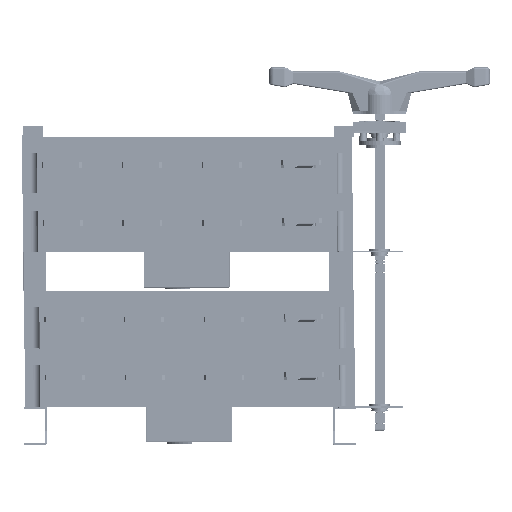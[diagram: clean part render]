
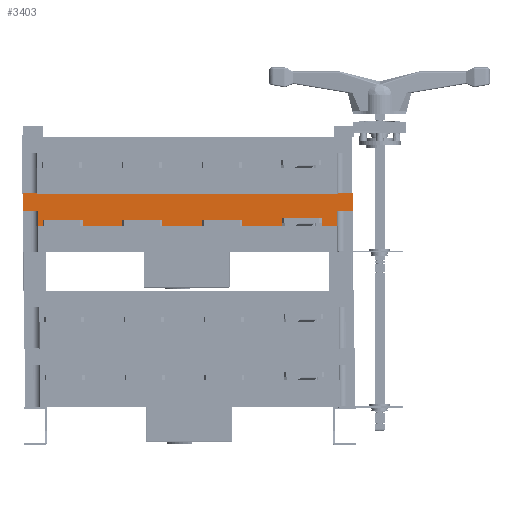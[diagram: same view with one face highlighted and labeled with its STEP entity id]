
A CAD part, front view. The second image highlights one B-rep face of the part: STEP entity #3403.
In plain terms, the highlighted planar face has unit normal (0, -1, 0).
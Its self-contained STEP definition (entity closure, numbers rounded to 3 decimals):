
#3403=ADVANCED_FACE('',(#5502),#4623,.T.);
#4623=PLANE('',#24958);
#5502=FACE_OUTER_BOUND('',#6639,.T.);
#6639=EDGE_LOOP('',(#9621,#9622,#9623,#9624,#9625,#9626,#9627,#9628,#9629,
#9630,#9631,#9632,#9633,#9634,#9635,#9636,#9637,#9638,#9639,#9640,#9641,
#9642,#9643,#9644,#9645,#9646,#9647,#9648));
#9621=ORIENTED_EDGE('',*,*,#17516,.F.);
#9622=ORIENTED_EDGE('',*,*,#17517,.T.);
#9623=ORIENTED_EDGE('',*,*,#17518,.T.);
#9624=ORIENTED_EDGE('',*,*,#17519,.F.);
#9625=ORIENTED_EDGE('',*,*,#17520,.F.);
#9626=ORIENTED_EDGE('',*,*,#17521,.T.);
#9627=ORIENTED_EDGE('',*,*,#17522,.T.);
#9628=ORIENTED_EDGE('',*,*,#17523,.F.);
#9629=ORIENTED_EDGE('',*,*,#17524,.F.);
#9630=ORIENTED_EDGE('',*,*,#17525,.T.);
#9631=ORIENTED_EDGE('',*,*,#17526,.T.);
#9632=ORIENTED_EDGE('',*,*,#17527,.F.);
#9633=ORIENTED_EDGE('',*,*,#17528,.F.);
#9634=ORIENTED_EDGE('',*,*,#17529,.T.);
#9635=ORIENTED_EDGE('',*,*,#17530,.T.);
#9636=ORIENTED_EDGE('',*,*,#17531,.F.);
#9637=ORIENTED_EDGE('',*,*,#17532,.F.);
#9638=ORIENTED_EDGE('',*,*,#17533,.T.);
#9639=ORIENTED_EDGE('',*,*,#17534,.T.);
#9640=ORIENTED_EDGE('',*,*,#17535,.F.);
#9641=ORIENTED_EDGE('',*,*,#17536,.F.);
#9642=ORIENTED_EDGE('',*,*,#17537,.T.);
#9643=ORIENTED_EDGE('',*,*,#17538,.T.);
#9644=ORIENTED_EDGE('',*,*,#17539,.T.);
#9645=ORIENTED_EDGE('',*,*,#17540,.F.);
#9646=ORIENTED_EDGE('',*,*,#17541,.F.);
#9647=ORIENTED_EDGE('',*,*,#17542,.F.);
#9648=ORIENTED_EDGE('',*,*,#17543,.F.);
#15045=VERTEX_POINT('',#39412);
#15046=VERTEX_POINT('',#39413);
#15047=VERTEX_POINT('',#39415);
#15048=VERTEX_POINT('',#39417);
#15049=VERTEX_POINT('',#39419);
#15050=VERTEX_POINT('',#39421);
#15051=VERTEX_POINT('',#39423);
#15052=VERTEX_POINT('',#39425);
#15053=VERTEX_POINT('',#39427);
#15054=VERTEX_POINT('',#39429);
#15055=VERTEX_POINT('',#39431);
#15056=VERTEX_POINT('',#39433);
#15057=VERTEX_POINT('',#39435);
#15058=VERTEX_POINT('',#39437);
#15059=VERTEX_POINT('',#39439);
#15060=VERTEX_POINT('',#39441);
#15061=VERTEX_POINT('',#39443);
#15062=VERTEX_POINT('',#39445);
#15063=VERTEX_POINT('',#39447);
#15064=VERTEX_POINT('',#39449);
#15065=VERTEX_POINT('',#39451);
#15066=VERTEX_POINT('',#39453);
#15067=VERTEX_POINT('',#39455);
#15068=VERTEX_POINT('',#39457);
#15069=VERTEX_POINT('',#39459);
#15070=VERTEX_POINT('',#39461);
#15071=VERTEX_POINT('',#39463);
#15072=VERTEX_POINT('',#39465);
#17516=EDGE_CURVE('',#15045,#15046,#20543,.T.);
#17517=EDGE_CURVE('',#15045,#15047,#20544,.T.);
#17518=EDGE_CURVE('',#15047,#15048,#20545,.T.);
#17519=EDGE_CURVE('',#15049,#15048,#20546,.T.);
#17520=EDGE_CURVE('',#15050,#15049,#20547,.T.);
#17521=EDGE_CURVE('',#15050,#15051,#20548,.T.);
#17522=EDGE_CURVE('',#15051,#15052,#20549,.T.);
#17523=EDGE_CURVE('',#15053,#15052,#20550,.T.);
#17524=EDGE_CURVE('',#15054,#15053,#20551,.T.);
#17525=EDGE_CURVE('',#15054,#15055,#20552,.T.);
#17526=EDGE_CURVE('',#15055,#15056,#20553,.T.);
#17527=EDGE_CURVE('',#15057,#15056,#20554,.T.);
#17528=EDGE_CURVE('',#15058,#15057,#20555,.T.);
#17529=EDGE_CURVE('',#15058,#15059,#20556,.T.);
#17530=EDGE_CURVE('',#15059,#15060,#20557,.T.);
#17531=EDGE_CURVE('',#15061,#15060,#20558,.T.);
#17532=EDGE_CURVE('',#15062,#15061,#20559,.T.);
#17533=EDGE_CURVE('',#15062,#15063,#20560,.T.);
#17534=EDGE_CURVE('',#15063,#15064,#20561,.T.);
#17535=EDGE_CURVE('',#15065,#15064,#20562,.T.);
#17536=EDGE_CURVE('',#15066,#15065,#20563,.T.);
#17537=EDGE_CURVE('',#15066,#15067,#20564,.T.);
#17538=EDGE_CURVE('',#15067,#15068,#20565,.T.);
#17539=EDGE_CURVE('',#15068,#15069,#20566,.T.);
#17540=EDGE_CURVE('',#15070,#15069,#20567,.T.);
#17541=EDGE_CURVE('',#15071,#15070,#20568,.T.);
#17542=EDGE_CURVE('',#15072,#15071,#20569,.T.);
#17543=EDGE_CURVE('',#15046,#15072,#20570,.T.);
#20543=LINE('',#39411,#22796);
#20544=LINE('',#39414,#22797);
#20545=LINE('',#39416,#22798);
#20546=LINE('',#39418,#22799);
#20547=LINE('',#39420,#22800);
#20548=LINE('',#39422,#22801);
#20549=LINE('',#39424,#22802);
#20550=LINE('',#39426,#22803);
#20551=LINE('',#39428,#22804);
#20552=LINE('',#39430,#22805);
#20553=LINE('',#39432,#22806);
#20554=LINE('',#39434,#22807);
#20555=LINE('',#39436,#22808);
#20556=LINE('',#39438,#22809);
#20557=LINE('',#39440,#22810);
#20558=LINE('',#39442,#22811);
#20559=LINE('',#39444,#22812);
#20560=LINE('',#39446,#22813);
#20561=LINE('',#39448,#22814);
#20562=LINE('',#39450,#22815);
#20563=LINE('',#39452,#22816);
#20564=LINE('',#39454,#22817);
#20565=LINE('',#39456,#22818);
#20566=LINE('',#39458,#22819);
#20567=LINE('',#39460,#22820);
#20568=LINE('',#39462,#22821);
#20569=LINE('',#39464,#22822);
#20570=LINE('',#39466,#22823);
#22796=VECTOR('',#28161,1.);
#22797=VECTOR('',#28162,1.);
#22798=VECTOR('',#28163,1.);
#22799=VECTOR('',#28164,1.);
#22800=VECTOR('',#28165,1.);
#22801=VECTOR('',#28166,1.);
#22802=VECTOR('',#28167,1.);
#22803=VECTOR('',#28168,1.);
#22804=VECTOR('',#28169,1.);
#22805=VECTOR('',#28170,1.);
#22806=VECTOR('',#28171,1.);
#22807=VECTOR('',#28172,1.);
#22808=VECTOR('',#28173,1.);
#22809=VECTOR('',#28174,1.);
#22810=VECTOR('',#28175,1.);
#22811=VECTOR('',#28176,1.);
#22812=VECTOR('',#28177,1.);
#22813=VECTOR('',#28178,1.);
#22814=VECTOR('',#28179,1.);
#22815=VECTOR('',#28180,1.);
#22816=VECTOR('',#28181,1.);
#22817=VECTOR('',#28182,1.);
#22818=VECTOR('',#28183,1.);
#22819=VECTOR('',#28184,1.);
#22820=VECTOR('',#28185,1.);
#22821=VECTOR('',#28186,1.);
#22822=VECTOR('',#28187,1.);
#22823=VECTOR('',#28188,1.);
#24958=AXIS2_PLACEMENT_3D('',#39467,#28189,#28190);
#28161=DIRECTION('',(-1.,0.,0.));
#28162=DIRECTION('',(0.,0.,-1.));
#28163=DIRECTION('',(1.,0.,0.));
#28164=DIRECTION('',(0.,0.,-1.));
#28165=DIRECTION('',(-1.,0.,0.));
#28166=DIRECTION('',(0.,0.,-1.));
#28167=DIRECTION('',(1.,0.,0.));
#28168=DIRECTION('',(0.,0.,-1.));
#28169=DIRECTION('',(-1.,0.,0.));
#28170=DIRECTION('',(0.,0.,-1.));
#28171=DIRECTION('',(1.,0.,0.));
#28172=DIRECTION('',(0.,0.,-1.));
#28173=DIRECTION('',(-1.,0.,0.));
#28174=DIRECTION('',(0.,0.,-1.));
#28175=DIRECTION('',(1.,0.,0.));
#28176=DIRECTION('',(0.,0.,-1.));
#28177=DIRECTION('',(-1.,0.,0.));
#28178=DIRECTION('',(0.,0.,-1.));
#28179=DIRECTION('',(1.,0.,0.));
#28180=DIRECTION('',(0.,0.,-1.));
#28181=DIRECTION('',(-1.,0.,0.));
#28182=DIRECTION('',(0.,0.,1.));
#28183=DIRECTION('',(-1.,0.,0.));
#28184=DIRECTION('',(0.,0.,-1.));
#28185=DIRECTION('',(1.,0.,0.));
#28186=DIRECTION('',(0.,0.,-1.));
#28187=DIRECTION('',(1.,0.,0.));
#28188=DIRECTION('',(0.,0.,1.));
#28189=DIRECTION('',(0.,-1.,0.));
#28190=DIRECTION('',(1.,0.,0.));
#39411=CARTESIAN_POINT('',(23.,-200.,-24.8));
#39412=CARTESIAN_POINT('',(23.,-200.,-24.8));
#39413=CARTESIAN_POINT('',(0.,-200.,-24.8));
#39414=CARTESIAN_POINT('',(23.,-200.,-24.8));
#39415=CARTESIAN_POINT('',(23.,-200.,-46.8));
#39416=CARTESIAN_POINT('',(0.,-200.,-46.8));
#39417=CARTESIAN_POINT('',(30.,-200.,-46.8));
#39418=CARTESIAN_POINT('',(30.,-200.,-38.8));
#39419=CARTESIAN_POINT('',(30.,-200.,-38.8));
#39420=CARTESIAN_POINT('',(90.,-200.,-38.8));
#39421=CARTESIAN_POINT('',(90.,-200.,-38.8));
#39422=CARTESIAN_POINT('',(90.,-200.,-38.8));
#39423=CARTESIAN_POINT('',(90.,-200.,-46.8));
#39424=CARTESIAN_POINT('',(0.,-200.,-46.8));
#39425=CARTESIAN_POINT('',(150.,-200.,-46.8));
#39426=CARTESIAN_POINT('',(150.,-200.,-38.8));
#39427=CARTESIAN_POINT('',(150.,-200.,-38.8));
#39428=CARTESIAN_POINT('',(210.,-200.,-38.8));
#39429=CARTESIAN_POINT('',(210.,-200.,-38.8));
#39430=CARTESIAN_POINT('',(210.,-200.,-38.8));
#39431=CARTESIAN_POINT('',(210.,-200.,-46.8));
#39432=CARTESIAN_POINT('',(0.,-200.,-46.8));
#39433=CARTESIAN_POINT('',(270.,-200.,-46.8));
#39434=CARTESIAN_POINT('',(270.,-200.,-38.8));
#39435=CARTESIAN_POINT('',(270.,-200.,-38.8));
#39436=CARTESIAN_POINT('',(330.,-200.,-38.8));
#39437=CARTESIAN_POINT('',(330.,-200.,-38.8));
#39438=CARTESIAN_POINT('',(330.,-200.,-38.8));
#39439=CARTESIAN_POINT('',(330.,-200.,-46.8));
#39440=CARTESIAN_POINT('',(0.,-200.,-46.8));
#39441=CARTESIAN_POINT('',(390.,-200.,-46.8));
#39442=CARTESIAN_POINT('',(390.,-200.,-34.8));
#39443=CARTESIAN_POINT('',(390.,-200.,-34.8));
#39444=CARTESIAN_POINT('',(450.,-200.,-34.8));
#39445=CARTESIAN_POINT('',(450.,-200.,-34.8));
#39446=CARTESIAN_POINT('',(450.,-200.,-34.8));
#39447=CARTESIAN_POINT('',(450.,-200.,-46.8));
#39448=CARTESIAN_POINT('',(0.,-200.,-46.8));
#39449=CARTESIAN_POINT('',(473.,-200.,-46.8));
#39450=CARTESIAN_POINT('',(473.,-200.,-24.8));
#39451=CARTESIAN_POINT('',(473.,-200.,-24.8));
#39452=CARTESIAN_POINT('',(496.,-200.,-24.8));
#39453=CARTESIAN_POINT('',(496.,-200.,-24.8));
#39454=CARTESIAN_POINT('',(496.,-200.,-46.8));
#39455=CARTESIAN_POINT('',(496.,-200.,1.8));
#39456=CARTESIAN_POINT('',(496.,-200.,1.8));
#39457=CARTESIAN_POINT('',(474.,-200.,1.8));
#39458=CARTESIAN_POINT('',(474.,-200.,1.8));
#39459=CARTESIAN_POINT('',(474.,-200.,0.));
#39460=CARTESIAN_POINT('',(0.,-200.,0.));
#39461=CARTESIAN_POINT('',(22.,-200.,0.));
#39462=CARTESIAN_POINT('',(22.,-200.,1.8));
#39463=CARTESIAN_POINT('',(22.,-200.,1.8));
#39464=CARTESIAN_POINT('',(0.,-200.,1.8));
#39465=CARTESIAN_POINT('',(0.,-200.,1.8));
#39466=CARTESIAN_POINT('',(0.,-200.,-46.8));
#39467=CARTESIAN_POINT('',(0.,-200.,-46.8));
